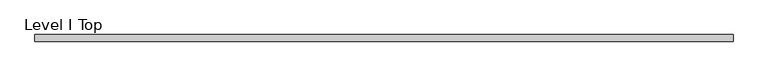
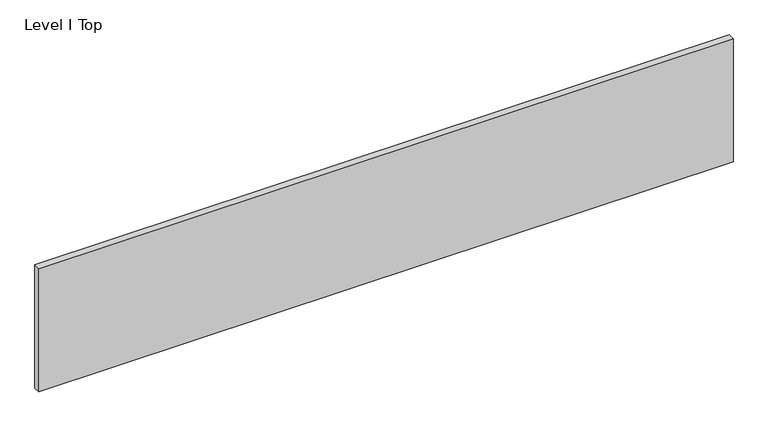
"""IFC4 building model written with IfcOpenShell, lengths in millimetres: proxy geometry, Panel-Fascia-Teknion-Altos-Landscape : Level I Top."""

from ifc_helpers import new_model, si_unit, frame, origin, place, context, project, spatial, polyline, outline, extrude, source, transform, mapped, element, save


def level_i_top_b0ef9d30(model_context):
    return source(origin(), model_context, "Body", "SweptSolid", [
        extrude(outline(polyline([(998.8407125, -9.525), (-998.8407125, -9.525), (-998.8407125, 9.525), (998.8407125, 9.525), (998.8407125, -9.525)])), frame((0.0, 0.0, 3.175), z_axis=(0.0, 0.0, 1.0), x_axis=(1.0, 0.0, 0.0)), (0.0, 0.0, 1.0), 374.65),
    ])


if __name__ == "__main__":
    model = new_model("IFC4")
    model_context = context("Model", 3, world=origin())
    ifc_project = project(units=[si_unit("LENGTHUNIT", "METRE", prefix="MILLI")], contexts=[model_context])
    site = spatial("IfcSite", under=ifc_project)
    building = spatial("IfcBuilding", under=site)
    placement = place(None, origin())
    level_i_top_shape = level_i_top_b0ef9d30(model_context)
    element("IfcBuildingElementProxy", 1, Name="Panel-Fascia-Teknion-Altos-Landscape : Level I Top", ObjectType="Panel-Fascia-Teknion-Altos-Landscape : Level I Top", at=placement, inside=building, context=model_context, shape_type="MappedRepresentation", body=[
        mapped(level_i_top_shape, transform((0.0, 0.0, 0.0), x_axis=(1.0, 0.0, 0.0), y_axis=(0.0, 1.0, 0.0), z_axis=(0.0, 0.0, 1.0))),
    ])
    save(model, "model.ifc")
